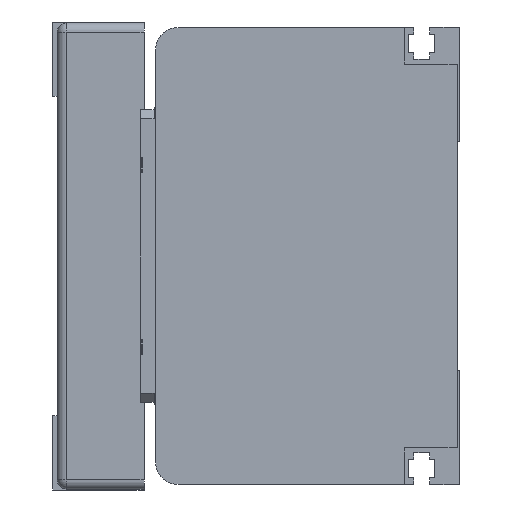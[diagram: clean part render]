
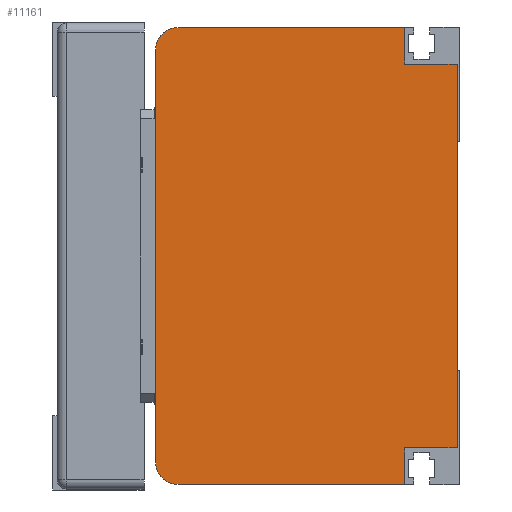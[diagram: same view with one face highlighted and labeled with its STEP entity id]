
A CAD part, left-side view. The second image highlights one B-rep face of the part: STEP entity #11161.
In plain terms, the highlighted planar face has unit normal (-1, 0, 0) as drawn and (0, 0, -1) by its records, which use the part's own axes.
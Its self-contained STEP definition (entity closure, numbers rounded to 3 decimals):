
#680=LINE('',#15584,#1737);
#681=LINE('',#15586,#1738);
#682=LINE('',#15588,#1739);
#683=LINE('',#15592,#1740);
#684=LINE('',#15596,#1741);
#685=LINE('',#15598,#1742);
#686=LINE('',#15600,#1743);
#687=LINE('',#15601,#1744);
#1737=VECTOR('',#12921,8.);
#1738=VECTOR('',#12922,8.);
#1739=VECTOR('',#12923,49.5);
#1740=VECTOR('',#12926,90.);
#1741=VECTOR('',#12929,49.5);
#1742=VECTOR('',#12930,8.);
#1743=VECTOR('',#12931,8.);
#1744=VECTOR('',#12932,98.);
#2751=PLANE('',#11930);
#3302=FACE_OUTER_BOUND('',#3987,.T.);
#3987=EDGE_LOOP('',(#7936,#7937,#7938,#7939,#7940,#7941,#7942,#7943,#7944,
#7945));
#4769=CIRCLE('',#11931,5.);
#4770=CIRCLE('',#11932,5.);
#5046=VERTEX_POINT('',#15582);
#5047=VERTEX_POINT('',#15583);
#5048=VERTEX_POINT('',#15585);
#5049=VERTEX_POINT('',#15587);
#5050=VERTEX_POINT('',#15589);
#5051=VERTEX_POINT('',#15591);
#5052=VERTEX_POINT('',#15593);
#5053=VERTEX_POINT('',#15595);
#5054=VERTEX_POINT('',#15597);
#5055=VERTEX_POINT('',#15599);
#6202=EDGE_CURVE('',#5046,#5047,#680,.T.);
#6203=EDGE_CURVE('',#5047,#5048,#681,.T.);
#6204=EDGE_CURVE('',#5048,#5049,#682,.T.);
#6205=EDGE_CURVE('',#5049,#5050,#4769,.T.);
#6206=EDGE_CURVE('',#5050,#5051,#683,.T.);
#6207=EDGE_CURVE('',#5051,#5052,#4770,.T.);
#6208=EDGE_CURVE('',#5052,#5053,#684,.T.);
#6209=EDGE_CURVE('',#5053,#5054,#685,.T.);
#6210=EDGE_CURVE('',#5054,#5055,#686,.T.);
#6211=EDGE_CURVE('',#5055,#5046,#687,.T.);
#7936=ORIENTED_EDGE('',*,*,#6202,.T.);
#7937=ORIENTED_EDGE('',*,*,#6203,.T.);
#7938=ORIENTED_EDGE('',*,*,#6204,.T.);
#7939=ORIENTED_EDGE('',*,*,#6205,.T.);
#7940=ORIENTED_EDGE('',*,*,#6206,.T.);
#7941=ORIENTED_EDGE('',*,*,#6207,.T.);
#7942=ORIENTED_EDGE('',*,*,#6208,.T.);
#7943=ORIENTED_EDGE('',*,*,#6209,.T.);
#7944=ORIENTED_EDGE('',*,*,#6210,.T.);
#7945=ORIENTED_EDGE('',*,*,#6211,.T.);
#11161=ADVANCED_FACE('',(#3302),#2751,.T.);
#11930=AXIS2_PLACEMENT_3D('',#15581,#12919,#12920);
#11931=AXIS2_PLACEMENT_3D('',#15590,#12924,#12925);
#11932=AXIS2_PLACEMENT_3D('',#15594,#12927,#12928);
#12919=DIRECTION('center_axis',(0.,0.,-1.));
#12920=DIRECTION('ref_axis',(-1.,0.,0.));
#12921=DIRECTION('',(0.,1.,0.));
#12922=DIRECTION('',(-1.,0.,0.));
#12923=DIRECTION('',(0.,1.,0.));
#12924=DIRECTION('center_axis',(0.,0.,-1.));
#12925=DIRECTION('ref_axis',(-1.,0.,0.));
#12926=DIRECTION('',(1.,0.,0.));
#12927=DIRECTION('center_axis',(0.,0.,-1.));
#12928=DIRECTION('ref_axis',(0.,1.,0.));
#12929=DIRECTION('',(0.,-1.,0.));
#12930=DIRECTION('',(-1.,0.,0.));
#12931=DIRECTION('',(0.,-1.,0.));
#12932=DIRECTION('',(-1.,0.,0.));
#15581=CARTESIAN_POINT('Origin',(0.,0.,-900.));
#15582=CARTESIAN_POINT('',(-9.,-8.,-900.));
#15583=CARTESIAN_POINT('',(-9.,3.5,-900.));
#15584=CARTESIAN_POINT('',(-9.,-4.5,-900.));
#15585=CARTESIAN_POINT('',(-17.,3.5,-900.));
#15586=CARTESIAN_POINT('',(-9.,3.5,-900.));
#15587=CARTESIAN_POINT('',(-17.,53.,-900.));
#15588=CARTESIAN_POINT('',(-17.,3.5,-900.));
#15589=CARTESIAN_POINT('',(-12.,58.,-900.));
#15590=CARTESIAN_POINT('Origin',(-12.,53.,-900.));
#15591=CARTESIAN_POINT('',(78.,58.,-900.));
#15592=CARTESIAN_POINT('',(-12.,58.,-900.));
#15593=CARTESIAN_POINT('',(83.,53.,-900.));
#15594=CARTESIAN_POINT('Origin',(78.,53.,-900.));
#15595=CARTESIAN_POINT('',(83.,3.5,-900.));
#15596=CARTESIAN_POINT('',(83.,53.,-900.));
#15597=CARTESIAN_POINT('',(75.,3.5,-900.));
#15598=CARTESIAN_POINT('',(83.,3.5,-900.));
#15599=CARTESIAN_POINT('',(75.,-8.,-900.));
#15600=CARTESIAN_POINT('',(75.,3.5,-900.));
#15601=CARTESIAN_POINT('',(82.,-8.,-900.));
